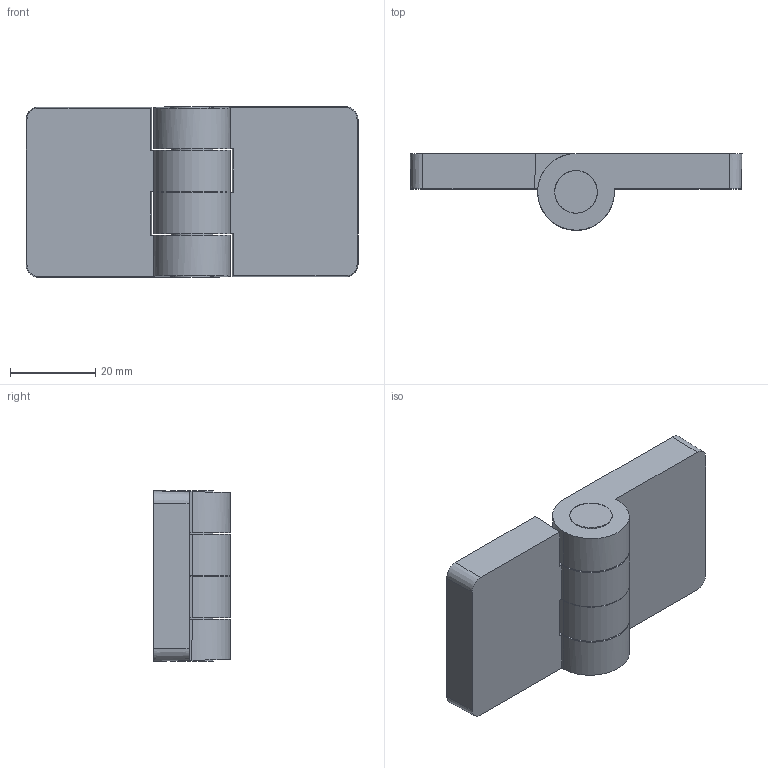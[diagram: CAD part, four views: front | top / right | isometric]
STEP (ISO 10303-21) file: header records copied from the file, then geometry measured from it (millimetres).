
FILE_DESCRIPTION(('STEP AP203'),'1');
FILE_NAME('bosch_3842554466_c4g0twr3x7h7a3izdc94j35eh.stp','2025-07-13T17:45:33',('TraceParts'),('TraceParts S.A.'),'Spatial InterOp 3D',' ',' ');
FILE_SCHEMA(('CONFIG_CONTROL_DESIGN'));
Length unit declared in the file: millimetre
Products named in the file (1): 1
Bounding box: 78 x 18 x 40.1 mm (x, y, z)
Volume: 30149.7 mm3; surface area: 10427.9 mm2
Topology: 1 solids, 1 shells, 48 faces, 126 edges, 84 vertices
Faces by surface type: cylinder 22, plane 22, cone 4
Entity records: 1554 total; most frequent: DIRECTION 276, CARTESIAN_POINT 259, ORIENTED_EDGE 252, EDGE_CURVE 126, AXIS2_PLACEMENT_3D 101, VERTEX_POINT 84, LINE 74, VECTOR 74
